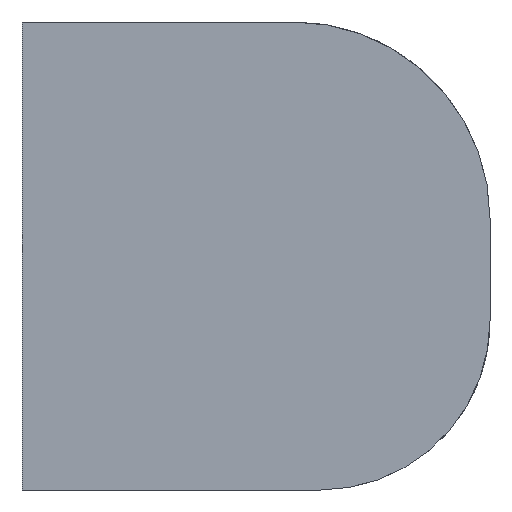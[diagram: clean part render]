
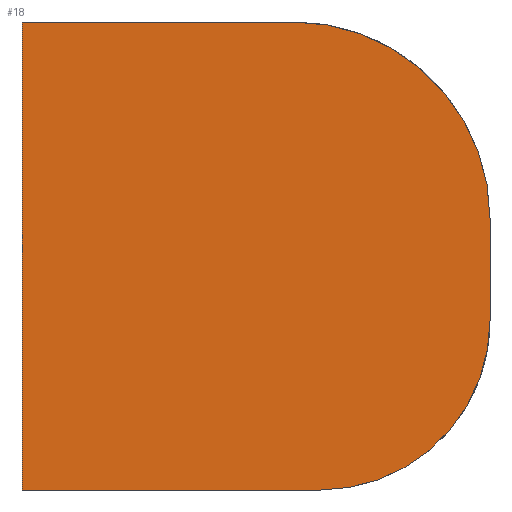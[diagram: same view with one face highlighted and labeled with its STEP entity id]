
A CAD part, left-side view. The second image highlights one B-rep face of the part: STEP entity #18.
In plain terms, the highlighted planar face has unit normal (-1, 0, 0).
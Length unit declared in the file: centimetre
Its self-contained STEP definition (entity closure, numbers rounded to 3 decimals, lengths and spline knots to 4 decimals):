
#15 = CARTESIAN_POINT ( 'NONE',  ( 0., 1000., 0. ) ) ;
#18 = ADVANCED_FACE ( 'NONE', ( #539 ), #92, .F. ) ;
#19 = VERTEX_POINT ( 'NONE', #154 ) ;
#23 = VERTEX_POINT ( 'NONE', #485 ) ;
#45 = ORIENTED_EDGE ( 'NONE', *, *, #206, .T. ) ;
#55 = EDGE_CURVE ( 'NONE', #23, #672, #550, .T. ) ;
#80 = VECTOR ( 'NONE', #606, 100. ) ;
#87 = VERTEX_POINT ( 'NONE', #378 ) ;
#92 = PLANE ( 'NONE',  #99 ) ;
#99 = AXIS2_PLACEMENT_3D ( 'NONE', #709, #145, #317 ) ;
#116 = DIRECTION ( 'NONE',  ( -1., 0., 0. ) ) ;
#141 = VERTEX_POINT ( 'NONE', #626 ) ;
#145 = DIRECTION ( 'NONE',  ( 1., 0., 0. ) ) ;
#153 = LINE ( 'NONE', #377, #80 ) ;
#154 = CARTESIAN_POINT ( 'NONE',  ( 0., 363.0345, 0. ) ) ;
#158 = ORIENTED_EDGE ( 'NONE', *, *, #360, .F. ) ;
#179 = ORIENTED_EDGE ( 'NONE', *, *, #184, .T. ) ;
#184 = EDGE_CURVE ( 'NONE', #19, #141, #361, .T. ) ;
#185 = VECTOR ( 'NONE', #658, 100. ) ;
#203 = CARTESIAN_POINT ( 'NONE',  ( 0., 1000., 1000. ) ) ;
#206 = EDGE_CURVE ( 'NONE', #672, #19, #398, .T. ) ;
#234 = ORIENTED_EDGE ( 'NONE', *, *, #429, .F. ) ;
#258 = AXIS2_PLACEMENT_3D ( 'NONE', #297, #629, #581 ) ;
#297 = CARTESIAN_POINT ( 'NONE',  ( 0., 363.0345, 363.0345 ) ) ;
#317 = DIRECTION ( 'NONE',  ( 0., 0., -1. ) ) ;
#319 = CARTESIAN_POINT ( 'NONE',  ( 0., 0., 579.0969 ) ) ;
#353 = EDGE_LOOP ( 'NONE', ( #45, #179, #158, #695, #234, #641 ) ) ;
#360 = EDGE_CURVE ( 'NONE', #375, #141, #490, .T. ) ;
#361 = CIRCLE ( 'NONE', #258, 363.0345 ) ;
#372 = VECTOR ( 'NONE', #690, 100. ) ;
#375 = VERTEX_POINT ( 'NONE', #319 ) ;
#377 = CARTESIAN_POINT ( 'NONE',  ( 0., 1000., 1000. ) ) ;
#378 = CARTESIAN_POINT ( 'NONE',  ( 0., 420.9031, 1000. ) ) ;
#398 = LINE ( 'NONE', #679, #372 ) ;
#404 = CIRCLE ( 'NONE', #564, 420.9031 ) ;
#429 = EDGE_CURVE ( 'NONE', #23, #87, #153, .T. ) ;
#485 = CARTESIAN_POINT ( 'NONE',  ( 0., 1000., 1000. ) ) ;
#490 = LINE ( 'NONE', #718, #573 ) ;
#539 = FACE_OUTER_BOUND ( 'NONE', #353, .T. ) ;
#550 = LINE ( 'NONE', #203, #185 ) ;
#559 = CARTESIAN_POINT ( 'NONE',  ( 0., 420.9031, 579.0969 ) ) ;
#564 = AXIS2_PLACEMENT_3D ( 'NONE', #559, #116, #620 ) ;
#572 = EDGE_CURVE ( 'NONE', #375, #87, #404, .T. ) ;
#573 = VECTOR ( 'NONE', #619, 100. ) ;
#581 = DIRECTION ( 'NONE',  ( 0., 0., -1. ) ) ;
#606 = DIRECTION ( 'NONE',  ( 0., -1., 0. ) ) ;
#619 = DIRECTION ( 'NONE',  ( 0., 0., -1. ) ) ;
#620 = DIRECTION ( 'NONE',  ( 0., 0., -1. ) ) ;
#626 = CARTESIAN_POINT ( 'NONE',  ( 0., 0., 363.0345 ) ) ;
#629 = DIRECTION ( 'NONE',  ( -1., 0., 0. ) ) ;
#641 = ORIENTED_EDGE ( 'NONE', *, *, #55, .T. ) ;
#658 = DIRECTION ( 'NONE',  ( 0., 0., -1. ) ) ;
#672 = VERTEX_POINT ( 'NONE', #15 ) ;
#679 = CARTESIAN_POINT ( 'NONE',  ( 0., 1000., 0. ) ) ;
#690 = DIRECTION ( 'NONE',  ( 0., -1., 0. ) ) ;
#695 = ORIENTED_EDGE ( 'NONE', *, *, #572, .T. ) ;
#709 = CARTESIAN_POINT ( 'NONE',  ( 0., 1000., 1000. ) ) ;
#718 = CARTESIAN_POINT ( 'NONE',  ( 0., 0., 1000. ) ) ;
